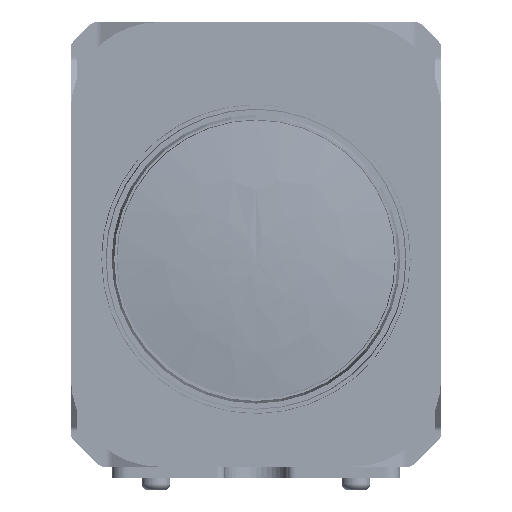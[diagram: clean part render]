
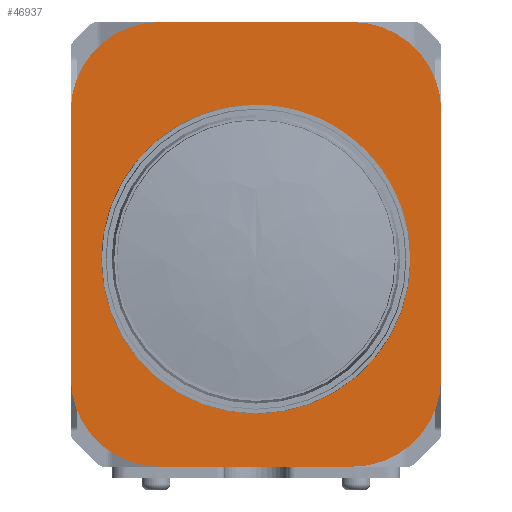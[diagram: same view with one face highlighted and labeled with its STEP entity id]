
A CAD part, left-side view. The second image highlights one B-rep face of the part: STEP entity #46937.
In plain terms, the highlighted planar face has unit normal (-1, 0, 0) as drawn and (1, 0, 0) by its records, which use the part's own axes.
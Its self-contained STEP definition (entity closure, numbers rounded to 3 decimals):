
#46937 = ADVANCED_FACE( '', ( #86905, #86906 ), #86907, .T. );
#86905 = FACE_BOUND( '', #127347, .T. );
#86906 = FACE_OUTER_BOUND( '', #127348, .T. );
#86907 = PLANE( '', #127349 );
#127347 = EDGE_LOOP( '', ( #199519 ) );
#127348 = EDGE_LOOP( '', ( #199520, #199521, #199522, #199523, #199524, #199525, #199526, #199527 ) );
#127349 = AXIS2_PLACEMENT_3D( '', #199528, #199529, #199530 );
#199519 = ORIENTED_EDGE( '', *, *, #234321, .F. );
#199520 = ORIENTED_EDGE( '', *, *, #245285, .T. );
#199521 = ORIENTED_EDGE( '', *, *, #243422, .T. );
#199522 = ORIENTED_EDGE( '', *, *, #233929, .T. );
#199523 = ORIENTED_EDGE( '', *, *, #227099, .T. );
#199524 = ORIENTED_EDGE( '', *, *, #247147, .T. );
#199525 = ORIENTED_EDGE( '', *, *, #240639, .T. );
#199526 = ORIENTED_EDGE( '', *, *, #222513, .T. );
#199527 = ORIENTED_EDGE( '', *, *, #240933, .T. );
#199528 = CARTESIAN_POINT( '', ( 42.95, 0., 0. ) );
#199529 = DIRECTION( '', ( 1., 0., 0. ) );
#199530 = DIRECTION( '', ( 0., 0., -1. ) );
#222513 = EDGE_CURVE( '', #254315, #254313, #254316, .T. );
#227099 = EDGE_CURVE( '', #262347, #262351, #262353, .T. );
#233929 = EDGE_CURVE( '', #273381, #262347, #273382, .T. );
#234321 = EDGE_CURVE( '', #273992, #273992, #273993, .T. );
#240639 = EDGE_CURVE( '', #283090, #254315, #283093, .T. );
#240933 = EDGE_CURVE( '', #254313, #283462, #283464, .T. );
#243422 = EDGE_CURVE( '', #286716, #273381, #286719, .T. );
#245285 = EDGE_CURVE( '', #283462, #286716, #289003, .T. );
#247147 = EDGE_CURVE( '', #262351, #283090, #291223, .T. );
#254313 = VERTEX_POINT( '', #299743 );
#254315 = VERTEX_POINT( '', #299746 );
#254316 = LINE( '', #299747, #299748 );
#262347 = VERTEX_POINT( '', #311073 );
#262351 = VERTEX_POINT( '', #311078 );
#262353 = CIRCLE( '', #311081, 12. );
#273381 = VERTEX_POINT( '', #326908 );
#273382 = LINE( '', #326909, #326910 );
#273992 = VERTEX_POINT( '', #327792 );
#273993 = CIRCLE( '', #327793, 20.1 );
#283090 = VERTEX_POINT( '', #341115 );
#283093 = CIRCLE( '', #341119, 12. );
#283462 = VERTEX_POINT( '', #341653 );
#283464 = CIRCLE( '', #341656, 12. );
#286716 = VERTEX_POINT( '', #346457 );
#286719 = CIRCLE( '', #346461, 12. );
#289003 = LINE( '', #349818, #349819 );
#291223 = LINE( '', #353040, #353041 );
#299743 = CARTESIAN_POINT( '', ( 42.95, 12.995, 0.005 ) );
#299746 = CARTESIAN_POINT( '', ( 42.95, -12.995, 0.005 ) );
#299747 = CARTESIAN_POINT( '', ( 42.95, -24.995, 0.005 ) );
#299748 = VECTOR( '', #360046, 1000. );
#311073 = CARTESIAN_POINT( '', ( 42.95, -12.995, 59.995 ) );
#311078 = CARTESIAN_POINT( '', ( 42.95, -24.995, 47.995 ) );
#311081 = AXIS2_PLACEMENT_3D( '', #365201, #365202, #365203 );
#326908 = CARTESIAN_POINT( '', ( 42.95, 12.995, 59.995 ) );
#326909 = CARTESIAN_POINT( '', ( 42.95, 24.995, 59.995 ) );
#326910 = VECTOR( '', #372299, 1000. );
#327792 = CARTESIAN_POINT( '', ( 42.95, 0., 7.9 ) );
#327793 = AXIS2_PLACEMENT_3D( '', #372745, #372746, #372747 );
#341115 = CARTESIAN_POINT( '', ( 42.95, -24.995, 12.005 ) );
#341119 = AXIS2_PLACEMENT_3D( '', #378935, #378936, #378937 );
#341653 = CARTESIAN_POINT( '', ( 42.95, 24.995, 12.005 ) );
#341656 = AXIS2_PLACEMENT_3D( '', #379206, #379207, #379208 );
#346457 = CARTESIAN_POINT( '', ( 42.95, 24.995, 47.995 ) );
#346461 = AXIS2_PLACEMENT_3D( '', #381405, #381406, #381407 );
#349818 = CARTESIAN_POINT( '', ( 42.95, 24.995, 0.005 ) );
#349819 = VECTOR( '', #382901, 1000. );
#353040 = CARTESIAN_POINT( '', ( 42.95, -24.995, 59.995 ) );
#353041 = VECTOR( '', #384377, 1000. );
#360046 = DIRECTION( '', ( 0., 1., 0. ) );
#365201 = CARTESIAN_POINT( '', ( 42.95, -12.995, 47.995 ) );
#365202 = DIRECTION( '', ( 1., 0., 0. ) );
#365203 = DIRECTION( '', ( 0., 0., -1. ) );
#372299 = DIRECTION( '', ( 0., -1., 0. ) );
#372745 = CARTESIAN_POINT( '', ( 42.95, 0., 28. ) );
#372746 = DIRECTION( '', ( 1., 0., 0. ) );
#372747 = DIRECTION( '', ( 0., 0., -1. ) );
#378935 = CARTESIAN_POINT( '', ( 42.95, -12.995, 12.005 ) );
#378936 = DIRECTION( '', ( 1., 0., 0. ) );
#378937 = DIRECTION( '', ( 0., 0., -1. ) );
#379206 = CARTESIAN_POINT( '', ( 42.95, 12.995, 12.005 ) );
#379207 = DIRECTION( '', ( 1., 0., 0. ) );
#379208 = DIRECTION( '', ( 0., 0., -1. ) );
#381405 = CARTESIAN_POINT( '', ( 42.95, 12.995, 47.995 ) );
#381406 = DIRECTION( '', ( 1., 0., 0. ) );
#381407 = DIRECTION( '', ( 0., 0., -1. ) );
#382901 = DIRECTION( '', ( 0., 0., 1. ) );
#384377 = DIRECTION( '', ( 0., 0., -1. ) );
